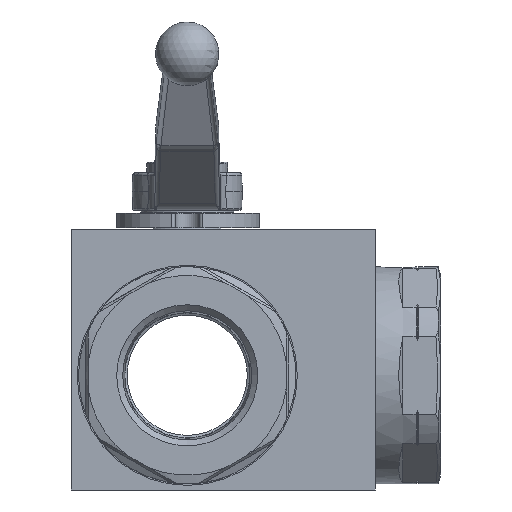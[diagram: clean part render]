
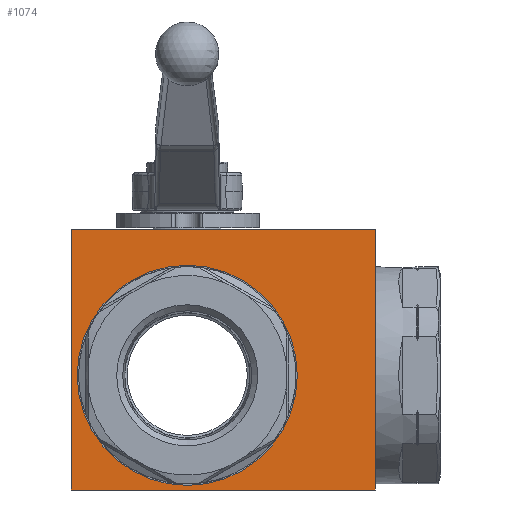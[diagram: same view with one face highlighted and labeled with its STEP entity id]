
A CAD part, front view. The second image highlights one B-rep face of the part: STEP entity #1074.
In plain terms, the highlighted planar face has unit normal (0, -1, 0) as drawn and (0, 1, 0) by its records, which use the part's own axes.
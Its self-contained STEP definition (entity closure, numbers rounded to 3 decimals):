
#1074 = ADVANCED_FACE( '', ( #2267, #2268 ), #2269, .F. );
#2267 = FACE_OUTER_BOUND( '', #3959, .T. );
#2268 = FACE_BOUND( '', #3960, .T. );
#2269 = PLANE( '', #3961 );
#3959 = EDGE_LOOP( '', ( #7142, #7143, #7144, #7145 ) );
#3960 = EDGE_LOOP( '', ( #7146 ) );
#3961 = AXIS2_PLACEMENT_3D( '', #7147, #7148, #7149 );
#7142 = ORIENTED_EDGE( '', *, *, #9286, .F. );
#7143 = ORIENTED_EDGE( '', *, *, #9838, .F. );
#7144 = ORIENTED_EDGE( '', *, *, #9324, .F. );
#7145 = ORIENTED_EDGE( '', *, *, #9839, .F. );
#7146 = ORIENTED_EDGE( '', *, *, #9840, .T. );
#7147 = CARTESIAN_POINT( '', ( 0., 43.5, 0. ) );
#7148 = DIRECTION( '', ( 0., -1., 0. ) );
#7149 = DIRECTION( '', ( 0., 0., -1. ) );
#9286 = EDGE_CURVE( '', #11048, #11049, #11050, .T. );
#9324 = EDGE_CURVE( '', #11106, #11107, #11108, .T. );
#9838 = EDGE_CURVE( '', #11107, #11048, #11877, .T. );
#9839 = EDGE_CURVE( '', #11049, #11106, #11878, .T. );
#9840 = EDGE_CURVE( '', #11879, #11879, #11880, .T. );
#11048 = VERTEX_POINT( '', #13981 );
#11049 = VERTEX_POINT( '', #13982 );
#11050 = LINE( '', #13983, #13984 );
#11106 = VERTEX_POINT( '', #14217 );
#11107 = VERTEX_POINT( '', #14218 );
#11108 = LINE( '', #14219, #14220 );
#11877 = LINE( '', #16022, #16023 );
#11878 = LINE( '', #16024, #16025 );
#11879 = VERTEX_POINT( '', #16026 );
#11880 = CIRCLE( '', #16027, 38. );
#13981 = CARTESIAN_POINT( '', ( -65., 43.5, 50.4 ) );
#13982 = CARTESIAN_POINT( '', ( -65., 43.5, -39.6 ) );
#13983 = CARTESIAN_POINT( '', ( -65., 43.5, 50.4 ) );
#13984 = VECTOR( '', #17779, 1000. );
#14217 = CARTESIAN_POINT( '', ( 40., 43.5, -39.6 ) );
#14218 = CARTESIAN_POINT( '', ( 40., 43.5, 50.4 ) );
#14219 = CARTESIAN_POINT( '', ( 40., 43.5, -39.6 ) );
#14220 = VECTOR( '', #17817, 1000. );
#16022 = CARTESIAN_POINT( '', ( 40., 43.5, 50.4 ) );
#16023 = VECTOR( '', #18419, 1000. );
#16024 = CARTESIAN_POINT( '', ( -65., 43.5, -39.6 ) );
#16025 = VECTOR( '', #18420, 1000. );
#16026 = CARTESIAN_POINT( '', ( 38., 43.5, 0. ) );
#16027 = AXIS2_PLACEMENT_3D( '', #18421, #18422, #18423 );
#17779 = DIRECTION( '', ( 0., 0., -1. ) );
#17817 = DIRECTION( '', ( 0., 0., 1. ) );
#18419 = DIRECTION( '', ( -1., 0., 0. ) );
#18420 = DIRECTION( '', ( 1., 0., 0. ) );
#18421 = CARTESIAN_POINT( '', ( 0., 43.5, 0. ) );
#18422 = DIRECTION( '', ( 0., -1., 0. ) );
#18423 = DIRECTION( '', ( 1., 0., 0. ) );
